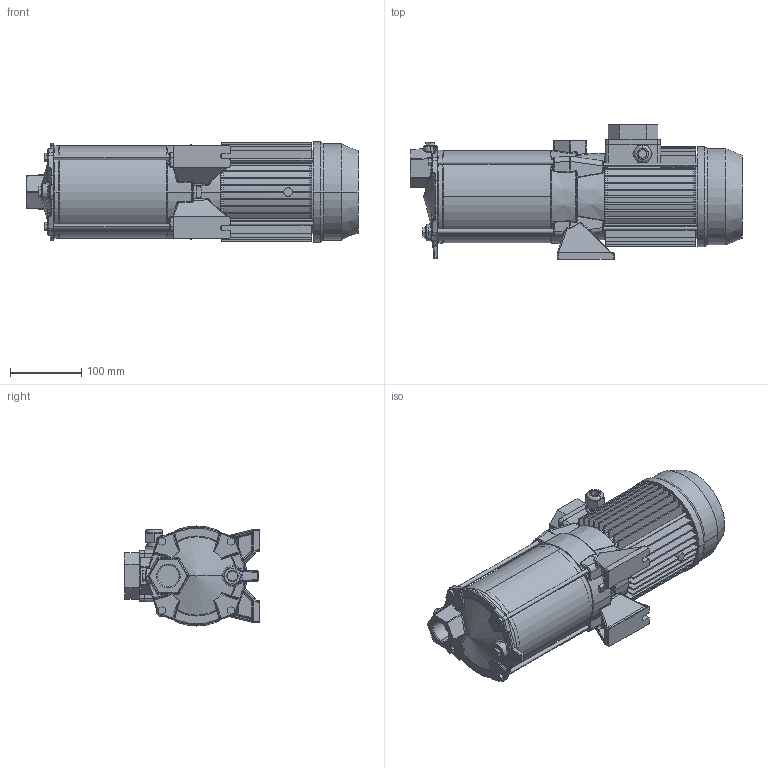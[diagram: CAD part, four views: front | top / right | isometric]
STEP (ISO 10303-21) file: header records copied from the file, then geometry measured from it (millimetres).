
FILE_DESCRIPTION((''),'2;1');
FILE_NAME('COMPACT_L_A_12_ASM','2019-10-04T',('rosa'),('"Ebara Pumps Europe +39.444.706811"'),'PRO/ENGINEER BY PARAMETRIC TECHNOLOGY CORPORATION, 2017170','PRO/ENGINEER BY PARAMETRIC TECHNOLOGY CORPORATION, 2017170','');
FILE_SCHEMA(('AUTOMOTIVE_DESIGN { 1 0 10303 214 1 1 1 1 }'));
Length unit declared in the file: millimetre
Products named in the file (6): MEC_71X110_IE2; 80585; 2710X_L-150_8; 20998; 40012_M6X190; COMPACT_L_A_12_ASM
Assembly tree (8 placements, depth 2):
  COMPACT_L_A_12_ASM
    MEC_71X110_IE2
    80585
    2710X_L-150_8
    20998
    40012_M6X190  x4
Bounding box: 465.3 x 188.5 x 140.4 mm (x, y, z)
Volume: 2837847.4 mm3; surface area: 564375.4 mm2
Topology: 8 solids, 8 shells, 1262 faces, 2989 edges, 1766 vertices
Faces by surface type: plane 418, cylinder 329, bspline 324, cone 88, torus 66, sphere 37
Entity records: 60565 total; most frequent: CARTESIAN_POINT 24371, ORIENTED_EDGE 5830, DIRECTION 4972, PRESENTATION_STYLE_ASSIGNMENT 2920, STYLED_ITEM 2920, CURVE_STYLE 2915, EDGE_CURVE 2915, AXIS2_PLACEMENT_3D 1949
